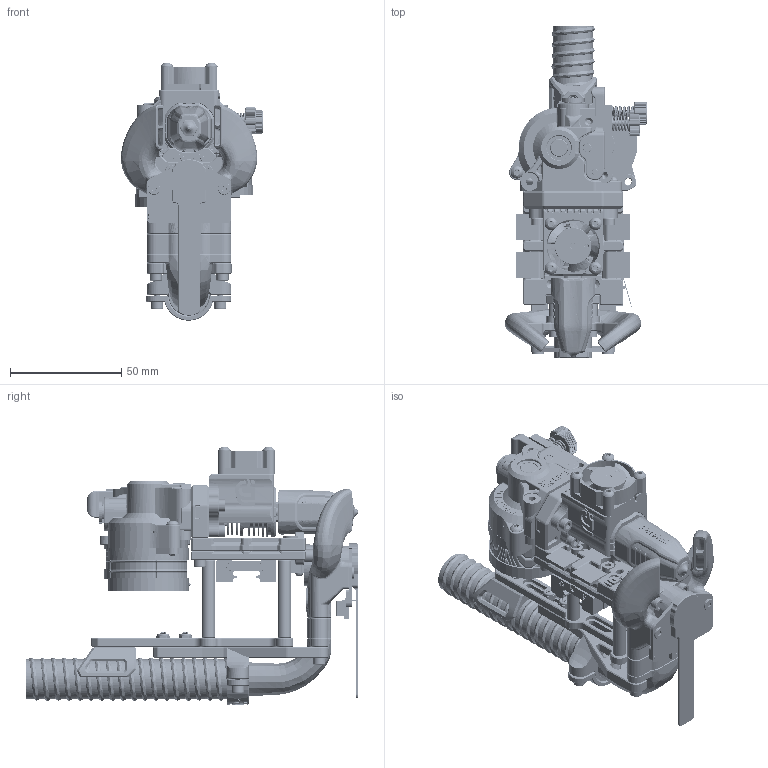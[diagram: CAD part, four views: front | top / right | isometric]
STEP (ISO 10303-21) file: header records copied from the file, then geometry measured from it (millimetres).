
FILE_DESCRIPTION(/* description */ (''),/* implementation_level */ '2;1');
FILE_NAME(/* name */ 'behemoth 3D Printed Toolhead.step',/* time_stamp */ '2026-11-22T18:53:11+01:00',/* author */ (''),/* organization */ (''),/* preprocessor_version */ 'ST-DEVELOPER v20.2',/* originating_system */ 'Autodesk Translation Framework v15.17.0.0',/* authorisation */ '');
FILE_SCHEMA (('AUTOMOTIVE_DESIGN { 1 0 10303 214 3 1 1 }'));
Products named in the file (119): 2026-11-13-20-40-17-194; 2026-11-21-10-54-48-019; 2026-11-19-22-41-28-275; 2026-11-13-21-05-51-010; 2026-11-17-14-25-42-153; 2026-11-19-22-42-33-010; 2026-11-13-15-41-08-523; 2026-11-13-21-44-03-467; 2026-11-13-23-23-54-105; SET 22 - behemoth CPAP Tube connector; SET 22 - behemoth Rear slider CPAP 15mm; SET 22 - behemoth CPAP Clamp; 2026-11-13-23-06-35-473; SET22 - behemoth CPAP and cable holder; 2026-11-22-12-33-09-727; 2026-11-22-12-45-03-424; 2026-11-22-12-50-32-372; M3x16 BHCS; 2026-11-22-12-45-12-695; 2026-11-21-21-58-16-144; Body (1); Blades (1); 2026-11-22-18-38-06-500; 2026-11-21-10-55-04-101; 2026-11-21-10-55-34-196; 2026-11-21-10-55-42-835; M2x10 Self-tapping Screw; 2026-11-21-10-55-51-023; 90358A111_Ultra-Low-Profile Socket Head Screw; 2026-11-21-10-59-13-032; 90358A001_Ultra-Low-Profile Socket Head Screw; 91292A112_18-8 Stainless Steel Socket Head Screw; 2026-11-19-23-49-02-681; 90358A003_Ultra-Low-Profile Socket Head Screw; 91292A115_18-8 Stainless Steel Socket Head Screw; 91292A059; 91292A024_18-8 Stainless Steel Socket Head Screw; 2026-11-21-10-57-42-954; 2026-11-09-08-30-38-896; 2026-11-21-11-07-30-625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
Assembly tree (201 placements, depth 8):
  2026-11-13-20-40-17-194
    2026-11-21-10-54-48-019
      2026-11-19-22-41-28-275
      2026-11-13-21-05-51-010
      2026-11-17-14-25-42-153
      2026-11-19-22-42-33-010
      2026-11-13-15-41-08-523
      2026-11-13-21-44-03-467
      2026-11-13-23-23-54-105
      SET 22 - behemoth CPAP Tube connector
      SET 22 - behemoth Rear slider CPAP 15mm
      SET 22 - behemoth CPAP Clamp
      2026-11-13-23-06-35-473
      SET22 - behemoth CPAP and cable holder
      2026-11-22-12-33-09-727
        2026-11-22-12-45-03-424
          2026-11-22-12-50-32-372
            M3x16 BHCS  x4
        2026-11-22-12-45-12-695
          2026-11-21-21-58-16-144
            Body (1)
            Blades (1)
      2026-11-22-18-38-06-500
    2026-11-21-10-55-04-101
      2026-11-21-10-55-34-196
        2026-11-21-10-55-42-835
          M2x10 Self-tapping Screw  x2
        2026-11-21-10-55-51-023
          90358A111_Ultra-Low-Profile Socket Head Screw  x6
        2026-11-21-10-59-13-032
          90358A001_Ultra-Low-Profile Socket Head Screw  x4
          91292A112_18-8 Stainless Steel Socket Head Screw  x8
          2026-11-19-23-49-02-681  x4
          90358A003_Ultra-Low-Profile Socket Head Screw  x4
          91292A115_18-8 Stainless Steel Socket Head Screw  x5
          91292A059  x2
          91292A024_18-8 Stainless Steel Socket Head Screw  x4
      2026-11-21-10-57-42-954
        2026-11-09-08-30-38-896  x11
      2026-11-21-11-07-30-625
        M3 Threaded Insert  x14
      2026-11-21-11-08-42-602
        2026-11-13-23-02-14-913  x2
        Aluminum Bushings 3.1IDx6ODx35mm  x4
      2026-11-21-11-11-07-552
        90453A111_Thin-Profile Nylon-Insert Locknut  x2
    2026-11-21-10-56-37-717
      2026-11-21-10-56-54-581
        Vz-HextrudORT-Low-PLUS
          push fit
          NEMA14_10t^sherpa_mini_compact_r6a
          Washer
          sreping
          Screw
          ajustement knob
          Vz-Hextrudort Mockup
        Orbiter v2.0 mockup v7 <1>
          Orbiter V2.0 Mockup <1>
            Latch (1)
            Orbiter 2.0
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Bounding box: 63.94 x 149.4 x 115.8 mm (x, y, z)
Volume: 207586.7 mm3; surface area: 194669.9 mm2
Topology: 178 solids, 188 shells, 17473 faces, 46942 edges, 30076 vertices
Faces by surface type: plane 6960, cylinder 4759, bspline 3786, cone 1576, torus 341, sphere 51
Full cylindrical faces by diameter (mm): 0.4 x3, 0.65 x4, 0.9 x8, 1.172 x1, 1.2 x7, 1.25 x6, 1.442 x1, 1.6 x5, 1.666 x1, 1.8 x1, 1.875 x1, 1.9 x2, 1.915 x60, 1.917 x8, 1.95 x6, 2 x12, 2.05 x14, 2.075 x5, 2.1 x2, 2.3 x2, 2.301 x8, 2.35 x744, 2.4 x1, 2.43 x9, 2.5 x116, 2.529 x19, 2.58 x5, 2.6 x12, 2.9 x22, 2.95 x8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
Entity records: 673654 total; most frequent: CARTESIAN_POINT 352415, ORIENTED_EDGE 72152, DIRECTION 57458, EDGE_CURVE 36076, VERTEX_POINT 23026, LINE 19542, VECTOR 19542, AXIS2_PLACEMENT_3D 18958
